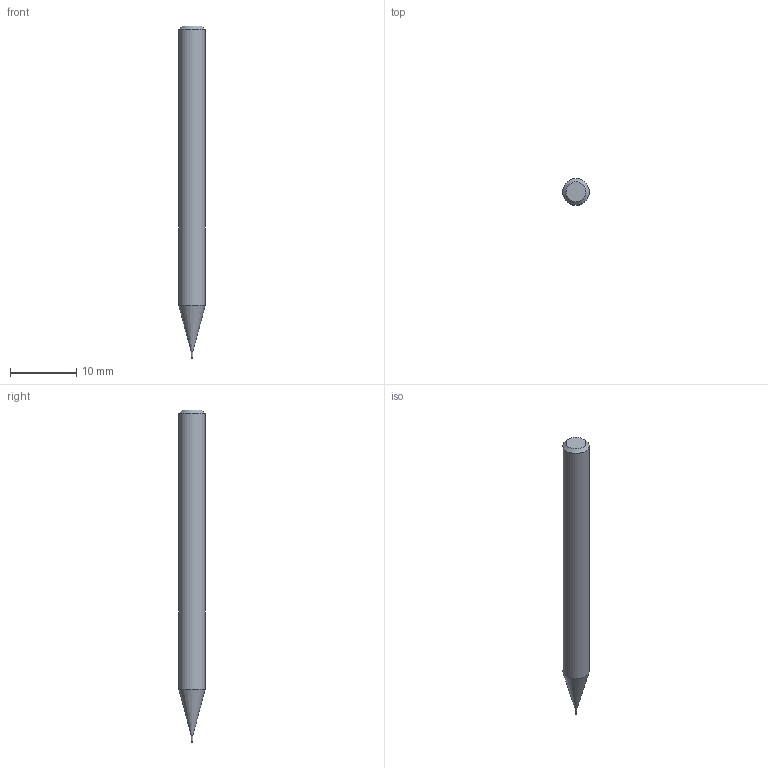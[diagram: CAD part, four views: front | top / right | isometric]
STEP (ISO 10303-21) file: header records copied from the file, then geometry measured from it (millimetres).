
FILE_DESCRIPTION((''),'2;1');
FILE_NAME('C:\Users\nsx150\AppData\Local\Temp\Mastercam 2021\LJSIDMOTM8\TEMP.step','2021-08-03T13:47:52',(''),(''),'STEP Write','Mastercam 2021 ... CNC Software, Inc.','');
FILE_SCHEMA(('AUTOMOTIVE_DESIGN'));
Length unit declared in the file: millimetre
Products named in the file (1): None
Bounding box: 4 x 4 x 50 mm (x, y, z)
Volume: 558.4 mm3; surface area: 586.5 mm2
Topology: 2 solids, 2 shells, 10 faces, 14 edges, 8 vertices
Faces by surface type: plane 4, cylinder 3, cone 2, torus 1
Full cylindrical faces by diameter (mm): 0.28 x1, 0.3 x1, 4 x1
Entity records: 232 total; most frequent: DIRECTION 40, CARTESIAN_POINT 28, AXIS2_PLACEMENT_3D 20, ORIENTED_EDGE 16, EDGE_LOOP 16, STYLED_ITEM 13, ADVANCED_FACE 10, FACE_BOUND 10
